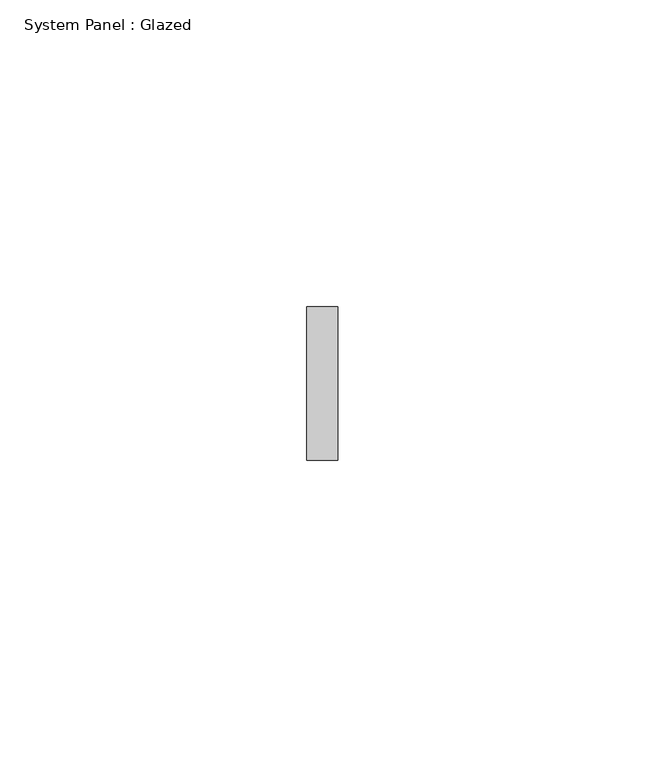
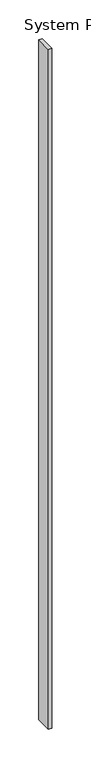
"""IFC4 building model written with IfcOpenShell, lengths in millimetres: plate geometry, System Panel : Glazed."""

import ifcopenshell
import ifcopenshell.guid

model = None  # the IFC model being written
_history = None  # IfcOwnerHistory: only IFC2X3 demands one
_inside = {}  # id of a spatial element -> (the spatial element, [elements in it])
_under = {}  # id of a project, library or spatial element -> (it, [spatial elements below it])
_declared = {}  # id of a project -> (the project, [libraries it declares])
_typed = {}  # id of a type object -> (the type object, [elements of that type])
_made_of = {}  # id of a material, layer set ... -> (it, [elements and type objects made of it])


def new_model(schema):
    """Start an empty IFC model of exactly this schema.

    Asked for "IFC4X3", IfcOpenShell would pick the latest addendum, in which some entities
    have other attributes; the version numbers below select the first issue.
    IFC2X3 requires an IfcOwnerHistory on every rooted entity: one is made here for all.
    """
    global model, _history
    if schema == "IFC4X3":
        model = ifcopenshell.file(schema_version=(4, 3, 0, 0))
    else:
        model = ifcopenshell.file(schema=schema)
    _inside.clear()
    _under.clear()
    _declared.clear()
    _typed.clear()
    _made_of.clear()
    _history = None
    if model.schema == "IFC2X3":
        org = make("IfcOrganization", Name="unknown")
        user = make(
            "IfcPersonAndOrganization",
            ThePerson=make("IfcPerson", FamilyName="unknown"),
            TheOrganization=org,
        )
        app = make(
            "IfcApplication",
            ApplicationDeveloper=org,
            Version="unknown",
            ApplicationFullName="unknown",
            ApplicationIdentifier="unknown",
        )
        _history = make(
            "IfcOwnerHistory",
            OwningUser=user,
            OwningApplication=app,
            ChangeAction="ADDED",
            CreationDate=0,
        )
    return model


def make(cls, **values):
    """One entity of the class cls with the attributes given. An attribute that is None is left unset."""
    return model.create_entity(
        cls, **{name: value for name, value in values.items() if value is not None}
    )


def rooted(cls, **values):
    """An entity with a GlobalId (a new one), such as an element, a storey or a relation."""
    return make(cls, GlobalId=ifcopenshell.guid.new(), OwnerHistory=_history, **values)


def si_unit(unit_type, name, prefix=None):
    """IfcSIUnit, for example si_unit("LENGTHUNIT", "METRE", prefix="MILLI")."""
    return make("IfcSIUnit", UnitType=unit_type, Prefix=prefix, Name=name)


def assignment(units):
    """IfcUnitAssignment: the units of a project."""
    return None if units is None else make("IfcUnitAssignment", Units=units)


def point(xyz):
    """IfcCartesianPoint."""
    return None if xyz is None else make("IfcCartesianPoint", Coordinates=xyz)


def direction(xyz):
    """IfcDirection."""
    return None if xyz is None else make("IfcDirection", DirectionRatios=xyz)


def frame(location, z_axis=None, x_axis=None):
    """IfcAxis2Placement3D, a coordinate frame: its origin and axes. An axis left out is left unset."""
    return make(
        "IfcAxis2Placement3D",
        Location=point(location),
        Axis=direction(z_axis),
        RefDirection=direction(x_axis),
    )


def origin():
    """The frame at (0, 0, 0) with its axes left unset."""
    return frame((0.0, 0.0, 0.0))


def origin_with_axes():
    """The frame at (0, 0, 0) with the z axis (0, 0, 1) and the x axis (1, 0, 0) written out."""
    return frame((0.0, 0.0, 0.0), z_axis=(0.0, 0.0, 1.0), x_axis=(1.0, 0.0, 0.0))


def place(relative_to, where):
    """IfcLocalPlacement: puts the frame where relative to a parent placement (None: the world)."""
    return make(
        "IfcLocalPlacement", PlacementRelTo=relative_to, RelativePlacement=where
    )


def context(
    kind, dimensions, precision=None, world=None, true_north=None, identifier=None
):
    """IfcGeometricRepresentationContext, for example the 3D "Model" context."""
    return make(
        "IfcGeometricRepresentationContext",
        ContextIdentifier=identifier,
        ContextType=kind,
        CoordinateSpaceDimension=dimensions,
        Precision=precision,
        WorldCoordinateSystem=world,
        TrueNorth=true_north,
    )


def project(units=None, contexts=None):
    """IfcProject with its units and contexts."""
    return rooted(
        "IfcProject",
        Name="project",
        RepresentationContexts=contexts,
        UnitsInContext=assignment(units),
    )


def spatial(cls, under=None, at=None, **own):
    """A site, building, storey or space (cls), placed at a placement, below another one or the project."""
    s = rooted(cls, ObjectPlacement=at, **own)
    if under is not None:
        _under.setdefault(under.id(), (under, []))[1].append(s)
    return s


def polyline(points):
    """IfcPolyline through the points."""
    return make("IfcPolyline", Points=[point(p) for p in points])


def outline(outer, holes=None, kind="AREA"):
    """IfcArbitraryClosedProfileDef: a profile drawn as a closed curve; with holes, ...WithVoids."""
    if holes is None:
        return make("IfcArbitraryClosedProfileDef", ProfileType=kind, OuterCurve=outer)
    return make(
        "IfcArbitraryProfileDefWithVoids",
        ProfileType=kind,
        OuterCurve=outer,
        InnerCurves=holes,
    )


def extrude(swept, where, along, depth):
    """IfcExtrudedAreaSolid: the profile swept, set in the frame where, extruded along a direction by depth."""
    return make(
        "IfcExtrudedAreaSolid",
        SweptArea=swept,
        Position=where,
        ExtrudedDirection=direction(along),
        Depth=depth,
    )


def shape(context_of_items, identifier, shape_type, items):
    """IfcShapeRepresentation: the items that make up one representation, for example the "Body"."""
    return make(
        "IfcShapeRepresentation",
        ContextOfItems=context_of_items,
        RepresentationIdentifier=identifier,
        RepresentationType=shape_type,
        Items=items,
    )


def source(mapping_origin, context_of_items, identifier, shape_type, items):
    """IfcRepresentationMap: a shape defined once, which mapped items show again and again."""
    return make(
        "IfcRepresentationMap",
        MappingOrigin=mapping_origin,
        MappedRepresentation=shape(context_of_items, identifier, shape_type, items),
    )


def transform(
    local_origin,
    x_axis=None,
    y_axis=None,
    z_axis=None,
    scale=None,
    scale2=None,
    scale3=None,
    uniform=True,
):
    """IfcCartesianTransformationOperator3D, or its non-uniform kind. x_axis, y_axis, z_axis: its Axis1, 2, 3."""
    if uniform:
        return make(
            "IfcCartesianTransformationOperator3D",
            Axis1=direction(x_axis),
            Axis2=direction(y_axis),
            LocalOrigin=point(local_origin),
            Scale=scale,
            Axis3=direction(z_axis),
        )
    return make(
        "IfcCartesianTransformationOperator3DnonUniform",
        Axis1=direction(x_axis),
        Axis2=direction(y_axis),
        LocalOrigin=point(local_origin),
        Scale=scale,
        Axis3=direction(z_axis),
        Scale2=scale2,
        Scale3=scale3,
    )


def mapped(mapping_source, mapping_target):
    """IfcMappedItem: shows the shape of a source again, moved by a transform."""
    return make(
        "IfcMappedItem", MappingSource=mapping_source, MappingTarget=mapping_target
    )


def made_of(thing, what):
    """Note that an element or type object is made of a material, layer set ...; save() writes the relation."""
    if what is not None:
        _made_of.setdefault(what.id(), (what, []))[1].append(thing)
    return thing


def element(
    cls,
    number,
    at=None,
    inside=None,
    cuts=None,
    type_object=None,
    material=None,
    context=None,
    identifier="Body",
    shape_type=None,
    held_by="IfcProductDefinitionShape",
    body=None,
    shapes=None,
    **own,
):
    """One element of the class cls, such as IfcWall. Its Tag is "e" and its number.

    at: its placement. inside: the storey or other place that contains it. cuts: it is an
    opening in that element (IfcRelVoidsElement). A single representation is given by context,
    identifier, shape_type and body (its items); several are given by shapes. held_by: the class
    of the entity that holds the representations. save() writes the other relations.
    """
    e = rooted(cls, Tag="e%d" % number, ObjectPlacement=at, **own)
    if body is not None:
        shapes = [shape(context, identifier, shape_type, body)]
    if shapes is not None:
        e.Representation = make(held_by, Representations=shapes)
    if inside is not None:
        _inside.setdefault(inside.id(), (inside, []))[1].append(e)
    if cuts is not None:
        rooted(
            "IfcRelVoidsElement", RelatingBuildingElement=cuts, RelatedOpeningElement=e
        )
    if type_object is not None:
        _typed.setdefault(type_object.id(), (type_object, []))[1].append(e)
    return made_of(e, material)


def aggregate(whole, parts):
    """IfcRelAggregates: a whole, such as a stair, and the parts it consists of."""
    return rooted("IfcRelAggregates", RelatingObject=whole, RelatedObjects=parts)


def save(model, path):
    """Write the relations noted so far, then the file.

    IfcRelAggregates (storeys below a building ...), IfcRelContainedInSpatialStructure (elements
    in a storey), IfcRelDefinesByType, IfcRelAssociatesMaterial and IfcRelDeclares: one each for
    every whole, place, type object, material and project.
    """
    for whole, parts in _under.values():
        aggregate(whole, parts)
    for where, things in _inside.values():
        rooted(
            "IfcRelContainedInSpatialStructure",
            RelatedElements=things,
            RelatingStructure=where,
        )
    for kind, things in _typed.values():
        rooted("IfcRelDefinesByType", RelatedObjects=things, RelatingType=kind)
    for what, things in _made_of.values():
        rooted("IfcRelAssociatesMaterial", RelatedObjects=things, RelatingMaterial=what)
    for by, libraries in _declared.values():
        rooted("IfcRelDeclares", RelatingContext=by, RelatedDefinitions=libraries)
    model.write(path)


def system_panel_glazed_b8dc1328(model_context):
    return source(origin(), model_context, "Body", "SweptSolid", [
        extrude(outline(polyline([(2.5331169, -12.5), (-2.5331169, -12.5), (-2.5331169, 12.5), (2.5331169, 12.5), (2.5331169, -12.5)])), origin_with_axes(), (0.0, 0.0, 1.0), 1070.0),
    ])


if __name__ == "__main__":
    model = new_model("IFC4")
    model_context = context("Model", 3, world=origin())
    ifc_project = project(units=[si_unit("LENGTHUNIT", "METRE", prefix="MILLI")], contexts=[model_context])
    site = spatial("IfcSite", under=ifc_project)
    building = spatial("IfcBuilding", under=site)
    placement = place(None, origin())
    system_panel_glazed_shape = system_panel_glazed_b8dc1328(model_context)
    element("IfcPlate", 1, ObjectType="System Panel : Glazed", at=placement, inside=building, context=model_context, shape_type="MappedRepresentation", body=[
        mapped(system_panel_glazed_shape, transform((0.0, 0.0, 0.0), x_axis=(1.0, 0.0, 0.0), y_axis=(0.0, 1.0, 0.0), z_axis=(0.0, 0.0, 1.0))),
    ])
    save(model, "model.ifc")
